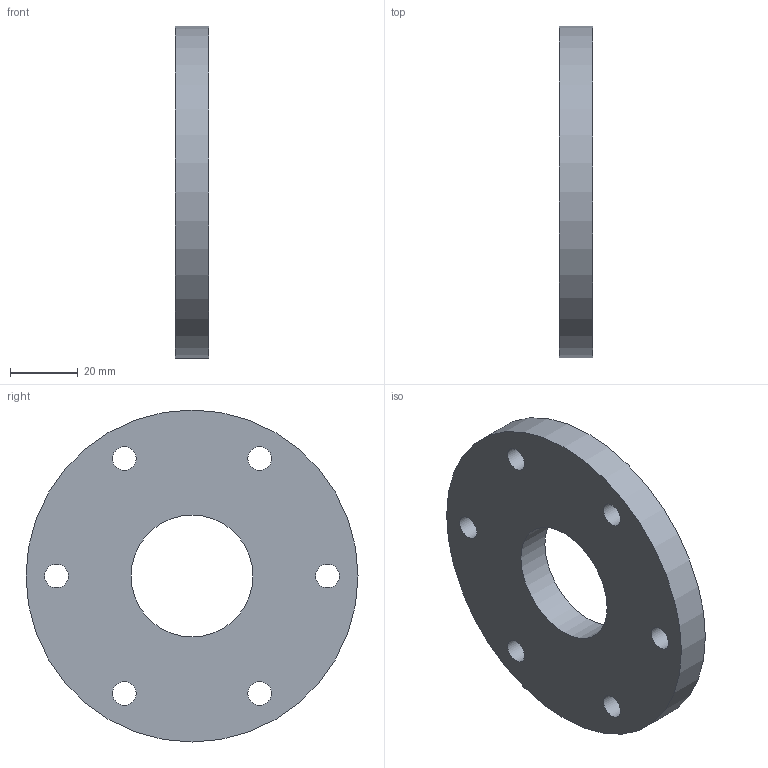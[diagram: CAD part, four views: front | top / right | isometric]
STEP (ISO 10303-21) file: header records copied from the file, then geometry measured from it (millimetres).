
FILE_DESCRIPTION(('Open CASCADE Model'),'2;1');
FILE_NAME('Open CASCADE Shape Model','2026-10-08T06:53:14',('Author'),( 'Open CASCADE'),'Open CASCADE STEP processor 7.8','Open CASCADE 7.8' ,'Unknown');
FILE_SCHEMA(('AUTOMOTIVE_DESIGN { 1 0 10303 214 1 1 1 1 }'));
Length unit declared in the file: millimetre
Products named in the file (1): Open CASCADE STEP translator 7.8 19
Bounding box: 10 x 98 x 98 mm (x, y, z)
Volume: 62941.8 mm3; surface area: 18117.6 mm2
Topology: 1 solids, 1 shells, 10 faces, 24 edges, 16 vertices
Faces by surface type: cylinder 8, plane 2
Full cylindrical faces by diameter (mm): 7 x6, 36 x1, 98 x1
Entity records: 690 total; most frequent: CARTESIAN_POINT 171, DIRECTION 98, ORIENTED_EDGE 48, PCURVE 48, DEFINITIONAL_REPRESENTATION 48, LINE 40, VECTOR 40, AXIS2_PLACEMENT_3D 27
